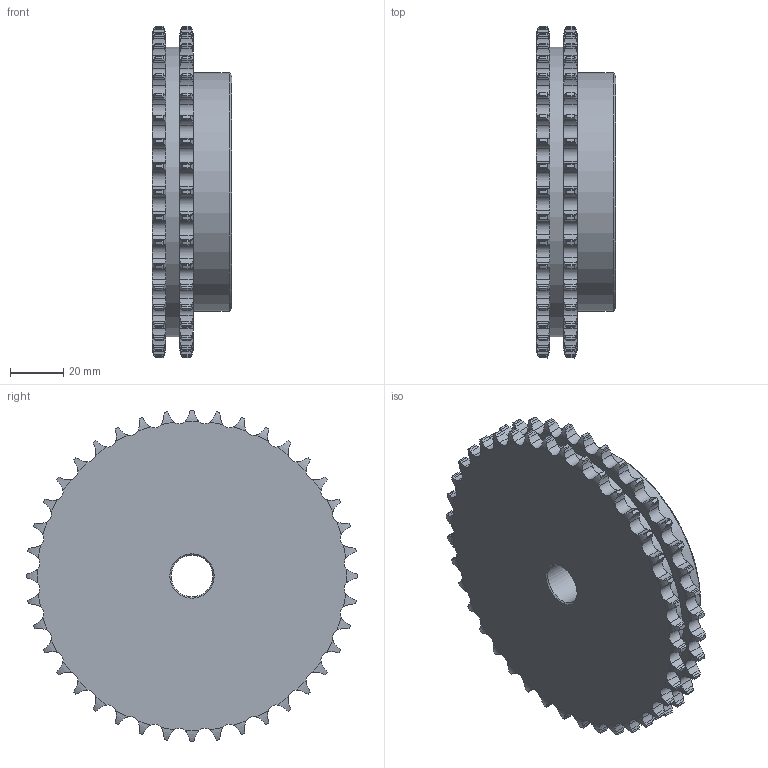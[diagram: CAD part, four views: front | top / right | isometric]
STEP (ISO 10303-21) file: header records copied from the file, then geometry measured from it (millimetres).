
FILE_DESCRIPTION(/* description */ (''),/* implementation_level */ '2;1');
FILE_NAME(/* name */ 'C:\Users\stagistaCAD\Desktop\10209040.stp',/* time_stamp */ '2018-06-22T11:57:10+02:00',/* author */ ('stagistacad'),/* organization */ (''),/* preprocessor_version */ 'ST-DEVELOPER v15.6',/* originating_system */ 'Autodesk Inventor 2015',/* authorisation */ '');
FILE_SCHEMA (('AUTOMOTIVE_DESIGN { 1 0 10303 214 3 1 1 }'));
Length unit declared in the file: millimetre
Products named in the file (1): 10209040
Bounding box: 30 x 125.05 x 125.05 mm (x, y, z)
Volume: 248366.1 mm3; surface area: 37886.4 mm2
Topology: 1 solids, 1 shells, 811 faces, 2415 edges, 1609 vertices
Faces by surface type: cylinder 483, plane 165, torus 160, cone 3
Full cylindrical faces by diameter (mm): 15.7 x1, 90 x1, 109.05 x1
Entity records: 29992 total; most frequent: CARTESIAN_POINT 10270, ORIENTED_EDGE 4818, DIRECTION 3242, EDGE_CURVE 2409, VERTEX_POINT 1609, AXIS2_PLACEMENT_3D 1301, B_SPLINE_CURVE_WITH_KNOTS 1280, EDGE_LOOP 822
